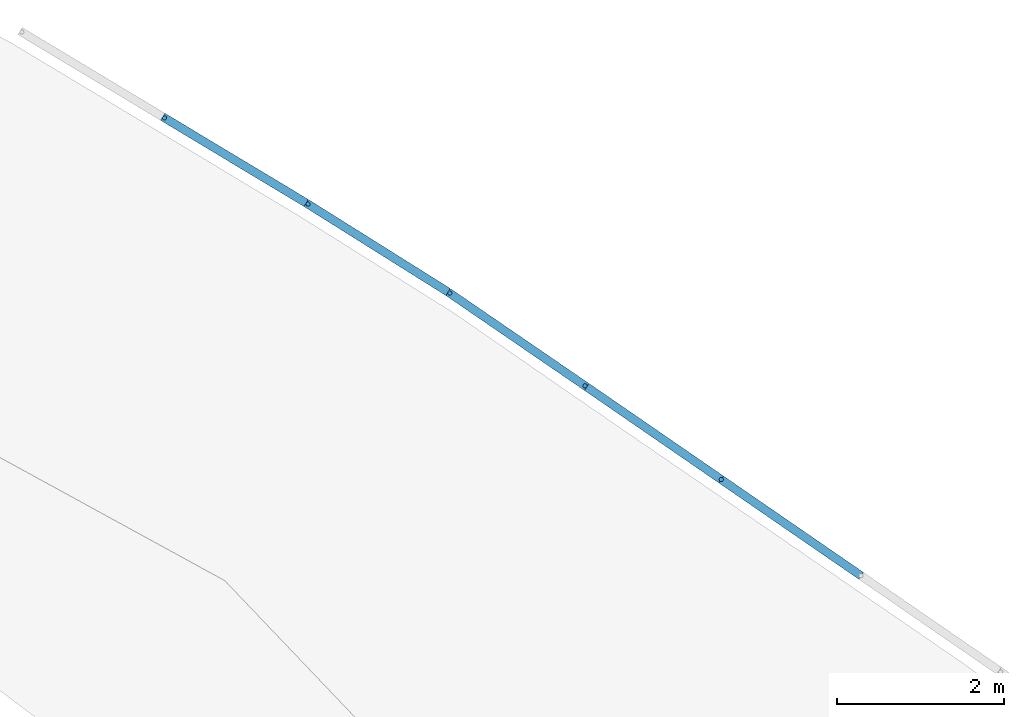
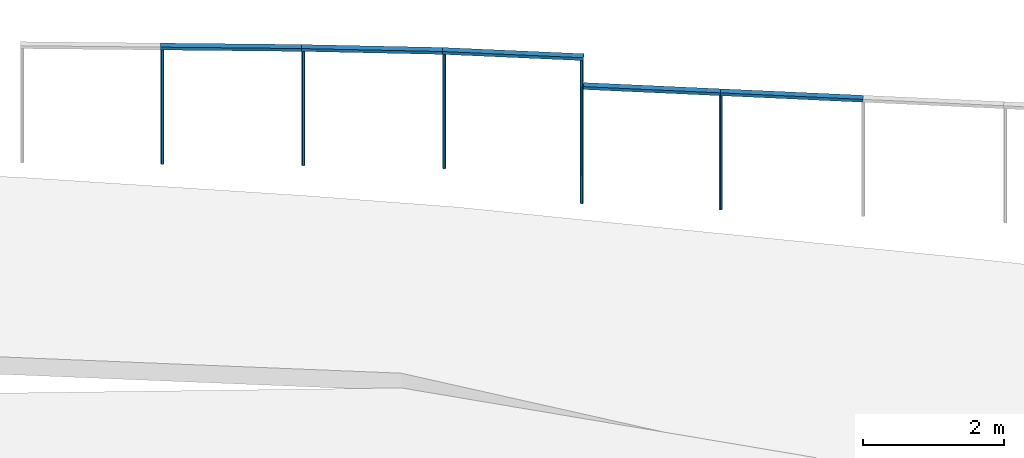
# One storey, part 9 of 12: 11 members, 5 elements without a shape of their own.
"""IFC2X3 building model written with IfcOpenShell, lengths in metres."""

from ifc_helpers import new_model, entity, si_unit, converted_unit, derived_unit, direction, frame, frame_2d, origin, origin_2d_with_axis, place, context, subcontext, project, spatial, rectangle, circle, extrude, source, transform, mapped, material, type_object, type_shapes, element, aggregate, save


model = new_model("IFC2X3")

# Units and contexts
model_context = context("Model", 3, precision=1e-05, world=origin(), true_north=direction((6.123031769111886e-17, 1.0)))
body_context = subcontext(model_context, "Body", "Model", "MODEL_VIEW")
ifc_project = project(units=[si_unit("LENGTHUNIT", "METRE"), si_unit("AREAUNIT", "SQUARE_METRE"), si_unit("VOLUMEUNIT", "CUBIC_METRE"), converted_unit("PLANEANGLEUNIT", "DEGREE", entity("IfcRatioMeasure", 0.017453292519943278), si_unit("PLANEANGLEUNIT", "RADIAN"), dimensions=[0, 0, 0, 0, 0, 0, 0]), si_unit("MASSUNIT", "GRAM", prefix="KILO"), derived_unit("MASSDENSITYUNIT", [(si_unit("MASSUNIT", "GRAM", prefix="KILO"), 1), (si_unit("LENGTHUNIT", "METRE"), -3)]), derived_unit("IONCONCENTRATIONUNIT", [(si_unit("MASSUNIT", "GRAM", prefix="KILO"), 1), (si_unit("LENGTHUNIT", "METRE"), -3)]), derived_unit("MOMENTOFINERTIAUNIT", [(si_unit("LENGTHUNIT", "METRE"), 4)]), si_unit("TIMEUNIT", "SECOND"), si_unit("FREQUENCYUNIT", "HERTZ"), si_unit("THERMODYNAMICTEMPERATUREUNIT", "DEGREE_CELSIUS"), derived_unit("THERMALTRANSMITTANCEUNIT", [(si_unit("MASSUNIT", "GRAM", prefix="KILO"), 1), (si_unit("THERMODYNAMICTEMPERATUREUNIT", "KELVIN"), -1), (si_unit("TIMEUNIT", "SECOND"), -3)]), derived_unit("THERMALCONDUCTANCEUNIT", [(si_unit("MASSUNIT", "GRAM", prefix="KILO"), 1), (si_unit("THERMODYNAMICTEMPERATUREUNIT", "KELVIN"), -1), (si_unit("TIMEUNIT", "SECOND"), -3), (si_unit("LENGTHUNIT", "METRE"), 1)]), derived_unit("VOLUMETRICFLOWRATEUNIT", [(si_unit("LENGTHUNIT", "METRE"), 3), (si_unit("TIMEUNIT", "SECOND"), -1)]), derived_unit("MASSFLOWRATEUNIT", [(si_unit("MASSUNIT", "GRAM", prefix="KILO"), 1), (si_unit("TIMEUNIT", "SECOND"), -1)]), derived_unit("ROTATIONALFREQUENCYUNIT", [(si_unit("TIMEUNIT", "SECOND"), -1)]), si_unit("ELECTRICCURRENTUNIT", "AMPERE"), si_unit("ELECTRICVOLTAGEUNIT", "VOLT"), si_unit("POWERUNIT", "WATT"), si_unit("FORCEUNIT", "NEWTON", prefix="KILO"), si_unit("ILLUMINANCEUNIT", "LUX"), si_unit("LUMINOUSFLUXUNIT", "LUMEN"), si_unit("LUMINOUSINTENSITYUNIT", "CANDELA"), derived_unit("USERDEFINED", [(si_unit("MASSUNIT", "GRAM", prefix="KILO"), -1), (si_unit("LENGTHUNIT", "METRE"), -2), (si_unit("TIMEUNIT", "SECOND"), 3), (si_unit("LUMINOUSFLUXUNIT", "LUMEN"), 1)]), derived_unit("USERDEFINED", [(si_unit("MASSUNIT", "GRAM", prefix="KILO"), 1), (si_unit("TIMEUNIT", "SECOND"), -3), (si_unit("LENGTHUNIT", "METRE"), 3), (si_unit("ELECTRICCURRENTUNIT", "AMPERE"), -2)]), derived_unit("SOUNDPOWERUNIT", [(si_unit("MASSUNIT", "GRAM", prefix="KILO"), 1), (si_unit("TIMEUNIT", "SECOND"), -3), (si_unit("LENGTHUNIT", "METRE"), 2)]), derived_unit("SOUNDPRESSUREUNIT", [(si_unit("MASSUNIT", "GRAM", prefix="KILO"), 1), (si_unit("LENGTHUNIT", "METRE"), -1), (si_unit("TIMEUNIT", "SECOND"), -2)]), derived_unit("LINEARVELOCITYUNIT", [(si_unit("LENGTHUNIT", "METRE"), 1), (si_unit("TIMEUNIT", "SECOND"), -1)]), si_unit("PRESSUREUNIT", "PASCAL"), derived_unit("USERDEFINED", [(si_unit("MASSUNIT", "GRAM", prefix="KILO"), 1), (si_unit("LENGTHUNIT", "METRE"), -2), (si_unit("TIMEUNIT", "SECOND"), -2)]), derived_unit("LINEARFORCEUNIT", [(si_unit("MASSUNIT", "GRAM", prefix="KILO"), 1), (si_unit("TIMEUNIT", "SECOND"), -2)]), derived_unit("PLANARFORCEUNIT", [(si_unit("MASSUNIT", "GRAM", prefix="KILO"), 1), (si_unit("LENGTHUNIT", "METRE"), -1), (si_unit("TIMEUNIT", "SECOND"), -2)]), derived_unit("SPECIFICHEATCAPACITYUNIT", [(si_unit("THERMODYNAMICTEMPERATUREUNIT", "KELVIN"), -1), (si_unit("LENGTHUNIT", "METRE"), 2), (si_unit("TIMEUNIT", "SECOND"), -2)]), derived_unit("HEATINGVALUEUNIT", [(si_unit("LENGTHUNIT", "METRE"), 2), (si_unit("TIMEUNIT", "SECOND"), -2)]), derived_unit("VAPORPERMEABILITYUNIT", [(si_unit("LENGTHUNIT", "METRE"), -1), (si_unit("TIMEUNIT", "SECOND"), 1)]), derived_unit("DYNAMICVISCOSITYUNIT", [(si_unit("MASSUNIT", "GRAM", prefix="KILO"), 1), (si_unit("TIMEUNIT", "SECOND"), -1), (si_unit("LENGTHUNIT", "METRE"), -1)]), derived_unit("THERMALEXPANSIONCOEFFICIENTUNIT", [(si_unit("THERMODYNAMICTEMPERATUREUNIT", "KELVIN"), -1)]), derived_unit("MODULUSOFELASTICITYUNIT", [(si_unit("MASSUNIT", "GRAM", prefix="KILO"), 1), (si_unit("LENGTHUNIT", "METRE"), -1), (si_unit("TIMEUNIT", "SECOND"), -2)]), derived_unit("ISOTHERMALMOISTURECAPACITYUNIT", [(si_unit("LENGTHUNIT", "METRE"), 3), (si_unit("MASSUNIT", "GRAM", prefix="KILO"), -1)]), derived_unit("MOISTUREDIFFUSIVITYUNIT", [(si_unit("TIMEUNIT", "SECOND"), -1), (si_unit("LENGTHUNIT", "METRE"), 2)])], contexts=[model_context])

# Site, building, storey
site_placement = place(None, origin())
site = spatial("IfcSite", under=ifc_project, at=site_placement, Name="Superficie", CompositionType="ELEMENT")
building_placement = place(site_placement, frame((0.0, 0.0, 235.0), z_axis=(0.0, 0.0, 1.0), x_axis=(-0.7996477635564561, 0.6004693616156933, 0.0)))
building = spatial("IfcBuilding", under=site, at=building_placement, CompositionType="ELEMENT")
storey_placement = place(building_placement, frame((0.0, 0.0, -4.459999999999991)))
storey = spatial("IfcBuildingStorey", under=building, at=storey_placement, Name="PS1- Vestuari", CompositionType="ELEMENT", Elevation=-4.459999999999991)

# Curtain wall, member
curtain_wall_type = type_object("IfcCurtainWallType", Name="Muro cortina:SER EXT- Tanca exterior", PredefinedType="NOTDEFINED")
curtain_wall_1_placement = place(storey_placement, frame((0.0, 0.0, 4.459999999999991)))
curtain_wall_1 = element("IfcCurtainWall", 1, at=curtain_wall_1_placement, inside=storey, type_object=curtain_wall_type, Name="Muro cortina:SER EXT- Tanca exterior", ObjectType="Muro cortina:SER EXT- Tanca exterior")
ifc_material_1 = material(Name="Acero inoxidable")
member_type_1 = type_object("IfcMemberType", Name="Montante circular:Perfil Tanca exterior", PredefinedType="MULLION", material=ifc_material_1)
shared_shape_1 = source(origin(), body_context, "Body", "SweptSolid", [
    extrude(circle(Radius=0.025, at=frame_2d((-2.1149748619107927e-18, -4.0388614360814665e-17), x_axis=(1.0, 0.0))), frame((0.0, 0.0, -2.0), z_axis=(0.0, 0.0, 1.0), x_axis=(-1.0, 0.0, 0.0)), (0.0, 0.0, 1.0), 1.9999999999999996),
])
type_shapes(member_type_1, [shared_shape_1])
member_1_placement = place(curtain_wall_1_placement, frame((59.90411484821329, -66.33834378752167, -5.174999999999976), z_axis=(0.0, 0.0, -1.0), x_axis=(-0.9991481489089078, -0.041267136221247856, 0.0)))
member_1 = element("IfcMember", 2, at=member_1_placement, type_object=member_type_1, material=ifc_material_1, Name="Montante circular:Perfil Tanca exterior", ObjectType="Montante circular:Perfil Tanca exterior", context=body_context, shape_type="MappedRepresentation", body=[
    mapped(shared_shape_1, transform((0.0, 0.0, 0.0), scale=1.0)),
])

curtain_wall_2_placement = place(storey_placement, frame((0.0, 0.0, 4.459999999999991)))
curtain_wall_2 = element("IfcCurtainWall", 3, at=curtain_wall_2_placement, inside=storey, type_object=curtain_wall_type, Name="Muro cortina:SER EXT- Tanca exterior", ObjectType="Muro cortina:SER EXT- Tanca exterior")
member_type_2 = type_object("IfcMemberType", Name="Montante circular:Perfil Tanca exterior", PredefinedType="MULLION", material=ifc_material_1)
shared_shape_2 = source(origin(), body_context, "Body", "SweptSolid", [
    extrude(circle(Radius=0.025, at=frame_2d((-1.304992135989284e-31, 4.038861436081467e-17), x_axis=(1.0, 0.0))), frame((-0.025, 0.0, -2.0)), (0.0, 0.0, 1.0), 1.9999999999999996),
])
type_shapes(member_type_2, [shared_shape_2])
member_2_placement = place(curtain_wall_2_placement, frame((65.85085105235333, -66.0027272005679, -2.674999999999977), z_axis=(0.0, 0.0, 1.0), x_axis=(0.9964923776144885, 0.08368357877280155, 0.0)))
member_2 = element("IfcMember", 4, at=member_2_placement, type_object=member_type_2, material=ifc_material_1, Name="Montante circular:Perfil Tanca exterior", ObjectType="Montante circular:Perfil Tanca exterior", context=body_context, shape_type="MappedRepresentation", body=[
    mapped(shared_shape_2, transform((0.0, 0.0, 0.0), scale=1.0)),
])

curtain_wall_3_placement = place(storey_placement, frame((0.0, 0.0, 4.459999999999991)))
curtain_wall_3 = element("IfcCurtainWall", 5, at=curtain_wall_3_placement, inside=storey, type_object=curtain_wall_type, Name="Muro cortina:SER EXT- Tanca exterior", ObjectType="Muro cortina:SER EXT- Tanca exterior")
member_3_placement = place(curtain_wall_3_placement, frame((67.79052656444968, -65.80233032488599, -2.674999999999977), z_axis=(0.0, 0.0, 1.0), x_axis=(-0.9947053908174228, -0.10276762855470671, 0.0)))
member_3 = element("IfcMember", 6, at=member_3_placement, type_object=member_type_2, material=ifc_material_1, Name="Montante circular:Perfil Tanca exterior", ObjectType="Montante circular:Perfil Tanca exterior", context=body_context, shape_type="MappedRepresentation", body=[
    mapped(shared_shape_2, transform((0.0, 0.0, 0.0), scale=1.0)),
])
aggregate(curtain_wall_3, [member_3])

# Member
member_type_3 = type_object("IfcMemberType", Name="Montante circular:Perfil Tanca exterior", PredefinedType="MULLION", material=ifc_material_1)
shared_shape_3 = source(origin(), body_context, "Body", "SweptSolid", [
    extrude(circle(Radius=0.025, at=frame_2d((-1.304992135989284e-31, 4.038861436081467e-17), x_axis=(1.0, 0.0))), frame((-0.025, 0.0, -2.0500000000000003)), (0.0, 0.0, 1.0), 2.0500000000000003),
])
type_shapes(member_type_3, [shared_shape_3])
member_4_placement = place(curtain_wall_1_placement, frame((61.90241114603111, -66.25580951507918, -3.124999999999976), z_axis=(0.0, 0.0, 1.0), x_axis=(0.9991481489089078, 0.041267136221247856, 0.0)))
member_4 = element("IfcMember", 7, at=member_4_placement, type_object=member_type_3, material=ifc_material_1, Name="Montante circular:Perfil Tanca exterior", ObjectType="Montante circular:Perfil Tanca exterior", context=body_context, shape_type="MappedRepresentation", body=[
    mapped(shared_shape_3, transform((0.0, 0.0, 0.0), scale=1.0)),
])

ifc_material_2 = material(Name="_Formigó- Solera- T1- STR")
member_type_4 = type_object("IfcMemberType", Name="Montante rectangular:Montante rectangular 100x50", PredefinedType="MULLION", material=ifc_material_2)
shared_shape_4 = source(origin(), body_context, "Body", "SweptSolid", [
    extrude(rectangle(XDim=0.1, YDim=0.05000000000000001, at=origin_2d_with_axis()), frame((-0.025000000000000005, 0.0, -1.9500000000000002), z_axis=(0.0, 0.0, 1.0), x_axis=(0.0, -1.0, 0.0)), (0.0, 0.0, 1.0), 1.9500000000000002),
])
type_shapes(member_type_4, [shared_shape_4])
member_5_placement = place(curtain_wall_1_placement, frame((59.90411484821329, -66.33834378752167, -3.124999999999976), z_axis=(-0.9991481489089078, -0.041267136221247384, 0.0), x_axis=(0.0, 0.0, 1.0)))
member_5 = element("IfcMember", 8, at=member_5_placement, type_object=member_type_4, material=ifc_material_2, Name="Montante rectangular:Montante rectangular 100x50", ObjectType="Montante rectangular:Montante rectangular 100x50", context=body_context, shape_type="MappedRepresentation", body=[
    mapped(shared_shape_4, transform((0.0, 0.0, 0.0), scale=1.0)),
])

member_type_5 = type_object("IfcMemberType", Name="Montante rectangular:Montante rectangular 100x50", PredefinedType="MULLION", material=ifc_material_2)
shared_shape_5 = source(origin(), body_context, "Body", "SweptSolid", [
    extrude(rectangle(XDim=0.1, YDim=0.05000000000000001, at=origin_2d_with_axis()), frame((-0.025000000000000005, 0.0, -2.0276958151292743), z_axis=(0.0, 0.0, 1.0), x_axis=(0.0, -1.0, 0.0)), (0.0, 0.0, 1.0), 2.0276958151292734),
])
type_shapes(member_type_5, [shared_shape_5])
member_6_placement = place(curtain_wall_1_placement, frame((57.878146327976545, -66.42202098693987, -3.124999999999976), z_axis=(-0.9991481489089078, -0.041267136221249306, 0.0), x_axis=(0.0, 0.0, 1.0)))
member_6 = element("IfcMember", 9, at=member_6_placement, type_object=member_type_5, material=ifc_material_2, Name="Montante rectangular:Montante rectangular 100x50", ObjectType="Montante rectangular:Montante rectangular 100x50", context=body_context, shape_type="MappedRepresentation", body=[
    mapped(shared_shape_5, transform((0.0, 0.0, 0.0), scale=1.0)),
])

aggregate(curtain_wall_1, [member_4, member_1, member_5, member_6])

# Curtain wall, members
curtain_wall_4_placement = place(storey_placement, frame((0.0, 0.0, 4.459999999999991)))
curtain_wall_4 = element("IfcCurtainWall", 10, at=curtain_wall_4_placement, inside=storey, type_object=curtain_wall_type, Name="Muro cortina:SER EXT- Tanca exterior", ObjectType="Muro cortina:SER EXT- Tanca exterior")
member_type_6 = type_object("IfcMemberType", Name="Montante circular:Perfil Tanca exterior", PredefinedType="MULLION", material=ifc_material_1)
shared_shape_6 = source(origin(), body_context, "Body", "SweptSolid", [
    extrude(circle(Radius=0.025, at=frame_2d((1.0028818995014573e-29, -3.2753675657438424e-15), x_axis=(1.0, 0.0))), frame((-0.025, 0.0, -2.0)), (0.0, 0.0, 1.0), 1.9999999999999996),
])
type_shapes(member_type_6, [shared_shape_6])
member_7_placement = place(curtain_wall_4_placement, frame((63.8578662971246, -66.17009435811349, -2.674999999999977), z_axis=(0.0, 0.0, 1.0), x_axis=(0.9990457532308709, 0.04367588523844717, 0.0)))
member_7 = element("IfcMember", 11, at=member_7_placement, type_object=member_type_6, material=ifc_material_1, Name="Montante circular:Perfil Tanca exterior", ObjectType="Montante circular:Perfil Tanca exterior", context=body_context, shape_type="MappedRepresentation", body=[
    mapped(shared_shape_6, transform((0.0, 0.0, 0.0), scale=1.0)),
])
member_type_7 = type_object("IfcMemberType", Name="Montante circular:Perfil Tanca exterior", PredefinedType="MULLION", material=ifc_material_1)
shared_shape_7 = source(origin(), body_context, "Body", "SweptSolid", [
    extrude(circle(Radius=0.025, at=frame_2d((-8.543676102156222e-28, 3.266907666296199e-15), x_axis=(1.0, 0.0))), frame((-0.025, 0.0, -2.0), z_axis=(0.0, 0.0, 1.0), x_axis=(-1.0, 0.0, 0.0)), (0.0, 0.0, 1.0), 1.9999999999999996),
])
type_shapes(member_type_7, [shared_shape_7])
member_8_placement = place(curtain_wall_4_placement, frame((61.85313310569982, -66.25773648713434, -4.674999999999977), z_axis=(0.0, 0.0, -1.0), x_axis=(-0.9990457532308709, -0.04367588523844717, 0.0)))
member_8 = element("IfcMember", 12, at=member_8_placement, type_object=member_type_7, material=ifc_material_1, Name="Montante circular:Perfil Tanca exterior", ObjectType="Montante circular:Perfil Tanca exterior", context=body_context, shape_type="MappedRepresentation", body=[
    mapped(shared_shape_7, transform((0.0, 0.0, 0.0), scale=1.0)),
])
member_type_8 = type_object("IfcMemberType", Name="Montante rectangular:Montante rectangular 100x50", PredefinedType="MULLION", material=ifc_material_2)
shared_shape_8 = source(origin(), body_context, "Body", "SweptSolid", [
    extrude(rectangle(XDim=0.1, YDim=0.05000000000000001, at=origin_2d_with_axis()), frame((-0.025000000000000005, 0.0, -2.0066480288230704), z_axis=(0.0, 0.0, 1.0), x_axis=(0.0, -1.0, 0.0)), (0.0, 0.0, 1.0), 2.0066480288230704),
])
type_shapes(member_type_8, [shared_shape_8])
member_9_placement = place(curtain_wall_4_placement, frame((61.853133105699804, -66.25773648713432, -2.624999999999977), z_axis=(-0.9990457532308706, -0.043675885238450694, 0.0), x_axis=(0.0, 0.0, 1.0)))
member_9 = element("IfcMember", 13, at=member_9_placement, type_object=member_type_8, material=ifc_material_2, Name="Montante rectangular:Montante rectangular 100x50", ObjectType="Montante rectangular:Montante rectangular 100x50", context=body_context, shape_type="MappedRepresentation", body=[
    mapped(shared_shape_8, transform((0.0, 0.0, 0.0), scale=1.0)),
])
aggregate(curtain_wall_4, [member_7, member_8, member_9])

# Member
member_type_9 = type_object("IfcMemberType", Name="Montante rectangular:Montante rectangular 100x50", PredefinedType="MULLION", material=ifc_material_2)
shared_shape_9 = source(origin(), body_context, "Body", "SweptSolid", [
    extrude(rectangle(XDim=0.1, YDim=0.05000000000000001, at=origin_2d_with_axis()), frame((-0.025000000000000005, 0.0, -2.0), z_axis=(0.0, 0.0, 1.0), x_axis=(0.0, -1.0, 0.0)), (0.0, 0.0, 1.0), 2.0000000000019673),
])
type_shapes(member_type_9, [shared_shape_9])
member_10_placement = place(curtain_wall_2_placement, frame((63.857866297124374, -66.17009435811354, -2.624999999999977), z_axis=(-0.9964923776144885, -0.08368357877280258, 0.0), x_axis=(0.0, 0.0, 1.0)))
member_10 = element("IfcMember", 14, at=member_10_placement, type_object=member_type_9, material=ifc_material_2, Name="Montante rectangular:Montante rectangular 100x50", ObjectType="Montante rectangular:Montante rectangular 100x50", context=body_context, shape_type="MappedRepresentation", body=[
    mapped(shared_shape_9, transform((0.0, 0.0, 0.0), scale=1.0)),
])

aggregate(curtain_wall_2, [member_2, member_10])

# Curtain wall, member
curtain_wall_5_placement = place(storey_placement, frame((0.0, 0.0, 4.459999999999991)))
curtain_wall_5 = element("IfcCurtainWall", 15, at=curtain_wall_5_placement, inside=storey, type_object=curtain_wall_type, Name="Muro cortina:SER EXT- Tanca exterior", ObjectType="Muro cortina:SER EXT- Tanca exterior")
member_type_10 = type_object("IfcMemberType", Name="Montante rectangular:Montante rectangular 100x50", PredefinedType="MULLION", material=ifc_material_2)
shared_shape_10 = source(origin(), body_context, "Body", "SweptSolid", [
    extrude(rectangle(XDim=0.1, YDim=0.05000000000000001, at=origin_2d_with_axis()), frame((-0.025000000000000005, 0.0, -2.0), z_axis=(0.0, 0.0, 1.0), x_axis=(0.0, -1.0, 0.0)), (0.0, 0.0, 1.0), 2.0000000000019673),
])
type_shapes(member_type_10, [shared_shape_10])
member_11_placement = place(curtain_wall_5_placement, frame((65.85085105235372, -66.00272720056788, -2.624999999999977), z_axis=(-0.9947053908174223, -0.10276762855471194, 0.0), x_axis=(0.0, 0.0, 1.0)))
member_11 = element("IfcMember", 16, at=member_11_placement, type_object=member_type_10, material=ifc_material_2, Name="Montante rectangular:Montante rectangular 100x50", ObjectType="Montante rectangular:Montante rectangular 100x50", context=body_context, shape_type="MappedRepresentation", body=[
    mapped(shared_shape_10, transform((0.0, 0.0, 0.0), scale=1.0)),
])
aggregate(curtain_wall_5, [member_11])

save(model, "model.ifc")
